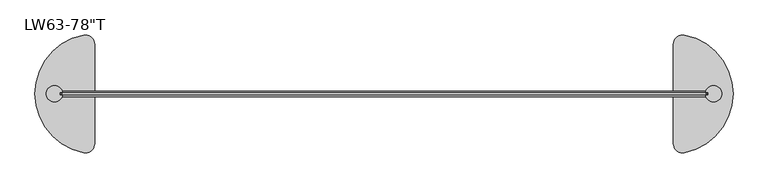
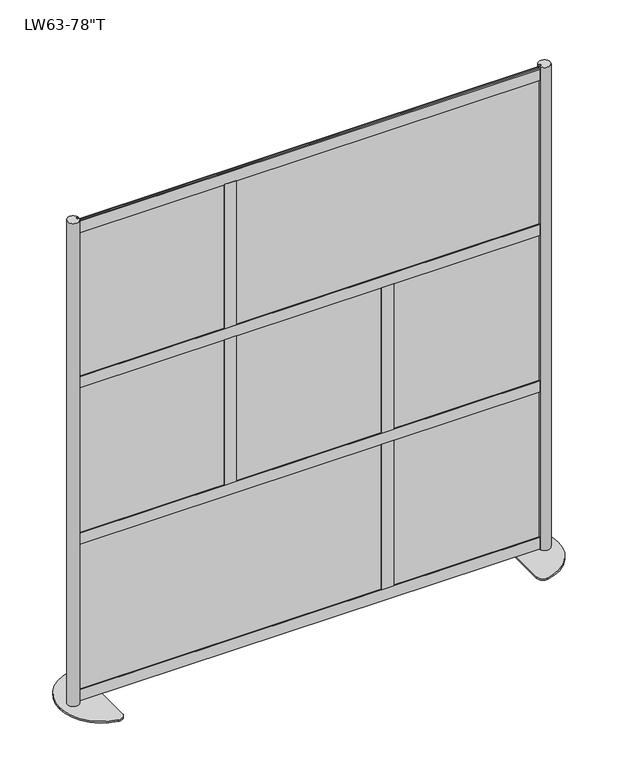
"""IFC4 building model written with IfcOpenShell, lengths in millimetres: furniture geometry."""

from ifc_helpers import new_model, si_unit, point, frame, frame_2d, origin, origin_with_axes, place, context, project, spatial, polyline, circle_curve, trimmed, segment, composite_curve, outline, extrude, source, transform, mapped, element, save


def furniture_44894f56(model_context):
    return source(origin(), model_context, "Body", "SweptSolid", [
        extrude(outline(polyline([(893.3285387, -1.531862), (-295.7089613, -1.531862), (-295.7089613, 1.643138), (893.3285387, 1.643138), (893.3285387, -1.531862)])), frame((0.0, 0.0, 1324.5091135), z_axis=(0.0, 0.0, 1.0), x_axis=(1.0, 0.0, 0.0)), (0.0, 0.0, 1.0), 608.965),
        extrude(outline(polyline([(292.5552141, -1.531862), (-896.4822859, -1.531862), (-896.4822859, 1.643138), (292.5552141, 1.643138), (292.5552141, -1.531862)])), frame((0.0, 0.0, 49.2132135), z_axis=(0.0, 0.0, 1.0), x_axis=(1.0, 0.0, 0.0)), (0.0, 0.0, 1.0), 608.965),
        extrude(outline(polyline([(-897.2933616, 1.5875), (-319.4433608, 1.5875), (-319.4435344, -1.5875), (-897.2935353, -1.5875), (-897.2933616, 1.5875)])), frame((0.0, 0.0, 1324.2670292), z_axis=(0.0, 0.0, 1.0), x_axis=(1.0, 0.0, 0.0)), (0.0, 0.0, 1.0), 608.965),
        extrude(outline(polyline([(-897.2933616, 1.5875), (-319.4433608, 1.5875), (-319.4435344, -1.5875), (-897.2935353, -1.5875), (-897.2933616, 1.5875)])), frame((0.0, 0.0, 689.2671), z_axis=(0.0, 0.0, 1.0), x_axis=(1.0, 0.0, 0.0)), (0.0, 0.0, 1.0), 608.965),
        extrude(outline(polyline([(-296.520037, 1.5875), (281.3299638, 1.5875), (281.3297902, -1.5875), (-296.5202107, -1.5875), (-296.520037, 1.5875)])), frame((0.0, 0.0, 689.2671), z_axis=(0.0, 0.0, 1.0), x_axis=(1.0, 0.0, 0.0)), (0.0, 0.0, 1.0), 608.965),
        extrude(outline(polyline([(316.9532876, 1.5875), (894.8032884, 1.5875), (894.8031147, -1.5875), (316.9531139, -1.5875), (316.9532876, 1.5875)])), frame((0.0, 0.0, 689.2671), z_axis=(0.0, 0.0, 1.0), x_axis=(1.0, 0.0, 0.0)), (0.0, 0.0, 1.0), 608.965),
        extrude(outline(polyline([(316.9532876, 1.5875), (894.8032884, 1.5875), (894.8031147, -1.5875), (316.9531139, -1.5875), (316.9532876, 1.5875)])), frame((0.0, 0.0, 49.2633), z_axis=(0.0, 0.0, 1.0), x_axis=(1.0, 0.0, 0.0)), (0.0, 0.0, 1.0), 608.965),
        extrude(outline(polyline([(323.8118123, 3.556), (316.6998123, 3.556), (316.6998123, -3.556), (323.8118123, -3.556), (323.8118123, -7.6327), (278.5490123, -7.6327), (278.5490123, -3.556), (285.6610123, -3.556), (285.6610123, 3.556), (278.5490123, 3.556), (278.5490123, 7.6327), (323.8118123, 7.6327), (323.8118123, 3.556)])), frame((0.0, 0.0, 696.3791), z_axis=(0.0, 0.0, 1.0), x_axis=(1.0, 0.0, 0.0)), (0.0, 0.0, 1.0), 594.741),
        extrude(outline(polyline([(323.8118123, 3.556), (316.6998123, 3.556), (316.6998123, -3.556), (323.8118123, -3.556), (323.8118123, -7.6327), (278.5490123, -7.6327), (278.5490123, -3.556), (285.6610123, -3.556), (285.6610123, 3.556), (278.5490123, 3.556), (278.5490123, 7.6327), (323.8118123, 7.6327), (323.8118123, 3.556)])), frame((0.0, 0.0, 56.3753), z_axis=(0.0, 0.0, 1.0), x_axis=(1.0, 0.0, 0.0)), (0.0, 0.0, 1.0), 594.741),
        extrude(outline(polyline([(-329.3680623, 3.556), (-329.3680623, 7.6327), (-284.1052623, 7.6327), (-284.1052623, 3.556), (-291.2172623, 3.556), (-291.2172623, -3.556), (-284.1052623, -3.556), (-284.1052623, -7.6327), (-329.3680623, -7.6327), (-329.3680623, -3.556), (-322.2560623, -3.556), (-322.2560623, 3.556), (-329.3680623, 3.556)])), frame((0.0, 0.0, 1336.3829), z_axis=(0.0, 0.0, 1.0), x_axis=(1.0, 0.0, 0.0)), (0.0, 0.0, 1.0), 590.0293),
        extrude(outline(polyline([(-329.3680623, 3.556), (-329.3680623, 7.6327), (-284.1052623, 7.6327), (-284.1052623, 3.556), (-291.2172623, 3.556), (-291.2172623, -3.556), (-284.1052623, -3.556), (-284.1052623, -7.6327), (-329.3680623, -7.6327), (-329.3680623, -3.556), (-322.2560623, -3.556), (-322.2560623, 3.556), (-329.3680623, 3.556)])), frame((0.0, 0.0, 696.3791), z_axis=(0.0, 0.0, 1.0), x_axis=(1.0, 0.0, 0.0)), (0.0, 0.0, 1.0), 594.741),
        extrude(outline(polyline([(3.556, 651.1163), (3.556, 658.2283), (-3.556, 658.2283), (-3.556, 651.1163), (-7.6327, 651.1163), (-7.6327, 696.3791), (-3.556, 696.3791), (-3.556, 689.2671), (3.556, 689.2671), (3.556, 696.3791), (7.6327, 696.3791), (7.6327, 651.1163), (3.556, 651.1163)])), frame((-889.7874, 0.0, 0.0), z_axis=(1.0, 0.0, 0.0), x_axis=(0.0, 1.0, 0.0)), (0.0, 0.0, 1.0), 1779.5748),
        extrude(outline(polyline([(3.556, 1291.1201), (3.556, 1298.2321), (-3.556, 1298.2321), (-3.556, 1291.1201), (-7.6327, 1291.1201), (-7.6327, 1336.3829), (-3.556, 1336.3829), (-3.556, 1329.2709), (3.556, 1329.2709), (3.556, 1336.3829), (7.6327, 1336.3829), (7.6327, 1291.1201), (3.556, 1291.1201)])), frame((-889.7874, 0.0, 0.0), z_axis=(1.0, 0.0, 0.0), x_axis=(0.0, 1.0, 0.0)), (0.0, 0.0, 1.0), 1779.5748),
        extrude(outline(polyline([(3.556, 11.1125), (3.556, 18.2245), (-3.556, 18.2245), (-3.556, 11.1125), (-7.6327, 11.1125), (-7.6327, 56.3753), (-3.556, 56.3753), (-3.556, 49.2633), (3.556, 49.2633), (3.556, 56.3753), (7.6327, 56.3753), (7.6327, 11.1125), (3.556, 11.1125)])), frame((-889.8636, 0.0, 0.0), z_axis=(1.0, 0.0, 0.0), x_axis=(0.0, 1.0, 0.0)), (0.0, 0.0, 1.0), 1779.7272),
        extrude(outline(polyline([(3.556, 1926.1200292), (3.556, 1933.2320292), (-3.556, 1933.2320292), (-3.556, 1926.1200292), (-7.6327, 1926.1200292), (-7.6327, 1971.3828292), (-3.556, 1971.3828292), (-3.556, 1964.2708292), (3.556, 1964.2708292), (3.556, 1971.3828292), (7.6327, 1971.3828292), (7.6327, 1926.1200292), (3.556, 1926.1200292)])), frame((-889.8636, 0.0, 0.0), z_axis=(1.0, 0.0, 0.0), x_axis=(0.0, 1.0, 0.0)), (0.0, 0.0, 1.0), 1779.7272),
        extrude(outline(composite_curve([segment(polyline([(889.8636, -7.7568093), (889.8636, -3.556), (896.9756, -3.556), (896.9756, 3.556), (889.8636, 3.556), (889.8636, 7.7568093)]), True, "CONTINUOUS"), segment(trimmed(circle_curve(frame_2d((910.9665837, 0.0)), 22.4834163), [point((889.8636, 7.7568093))], [point((889.8636, -7.7568093))], False, "CARTESIAN"), True, "CONTINUOUS")], self_intersect=False)), frame((0.0, 0.0, 6.35), z_axis=(0.0, 0.0, 1.0), x_axis=(1.0, 0.0, 0.0)), (0.0, 0.0, 1.0), 1974.85),
        extrude(outline(composite_curve([segment(polyline([(800.1, -137.3715036), (800.1, 137.3715036)]), True, "CONTINUOUS"), segment(trimmed(circle_curve(frame_2d((825.5, 137.3715036)), 25.4), [point((800.1, 137.3715036))], [point((830.1181818, 162.3481406))], False, "CARTESIAN"), True, "CONTINUOUS"), segment(trimmed(circle_curve(frame_2d((800.1, 0.0)), 165.1), [point((830.1181818, 162.3481406))], [point((965.2, 0.0))], False, "CARTESIAN"), True, "CONTINUOUS"), segment(trimmed(circle_curve(frame_2d((800.1, 0.0)), 165.1), [point((965.2, 0.0))], [point((830.1181818, -162.3481406))], False, "CARTESIAN"), True, "CONTINUOUS"), segment(trimmed(circle_curve(frame_2d((825.5, -137.3715036)), 25.4), [point((830.1181818, -162.3481406))], [point((800.1, -137.3715036))], False, "CARTESIAN"), True, "CONTINUOUS")], self_intersect=False)), origin_with_axes(), (0.0, 0.0, 1.0), 6.35),
        extrude(outline(composite_curve([segment(trimmed(circle_curve(frame_2d((-910.9665837, 0.0)), 22.4834163), [point((-889.8636, -7.7568093))], [point((-889.8636, 7.7568093))], False, "CARTESIAN"), True, "CONTINUOUS"), segment(polyline([(-889.8636, 7.7568093), (-889.8636, 3.556), (-896.9756, 3.556), (-896.9756, -3.556), (-889.8636, -3.556), (-889.8636, -7.7568093)]), True, "CONTINUOUS")], self_intersect=False)), frame((0.0, 0.0, 6.35), z_axis=(0.0, 0.0, 1.0), x_axis=(1.0, 0.0, 0.0)), (0.0, 0.0, 1.0), 1974.85),
        extrude(outline(composite_curve([segment(trimmed(circle_curve(frame_2d((-825.5, -137.3715036)), 25.4), [point((-800.1, -137.3715036))], [point((-830.1181818, -162.3481406))], False, "CARTESIAN"), True, "CONTINUOUS"), segment(trimmed(circle_curve(frame_2d((-800.1, 0.0)), 165.1), [point((-830.1181818, -162.3481406))], [point((-965.2, 0.0))], False, "CARTESIAN"), True, "CONTINUOUS"), segment(trimmed(circle_curve(frame_2d((-800.1, 0.0)), 165.1), [point((-965.2, 0.0))], [point((-830.1181818, 162.3481406))], False, "CARTESIAN"), True, "CONTINUOUS"), segment(trimmed(circle_curve(frame_2d((-825.5, 137.3715036)), 25.4), [point((-830.1181818, 162.3481406))], [point((-800.1, 137.3715036))], False, "CARTESIAN"), True, "CONTINUOUS"), segment(polyline([(-800.1, 137.3715036), (-800.1, -137.3715036)]), True, "CONTINUOUS")], self_intersect=False)), origin_with_axes(), (0.0, 0.0, 1.0), 6.35),
    ])


if __name__ == "__main__":
    model = new_model("IFC4")
    model_context = context("Model", 3, world=origin())
    ifc_project = project(units=[si_unit("LENGTHUNIT", "METRE", prefix="MILLI")], contexts=[model_context])
    site = spatial("IfcSite", under=ifc_project)
    building = spatial("IfcBuilding", under=site)
    placement = place(None, origin())
    furniture_shape = furniture_44894f56(model_context)
    element("IfcFurniture", 1, ObjectType="Loft_Wall-Framewall-76 : LW63-78\"T", at=placement, inside=building, context=model_context, shape_type="MappedRepresentation", body=[
        mapped(furniture_shape, transform((0.0, 0.0, 0.0), x_axis=(1.0, 0.0, 0.0), y_axis=(0.0, 1.0, 0.0), z_axis=(0.0, 0.0, 1.0))),
    ])
    save(model, "model.ifc")
